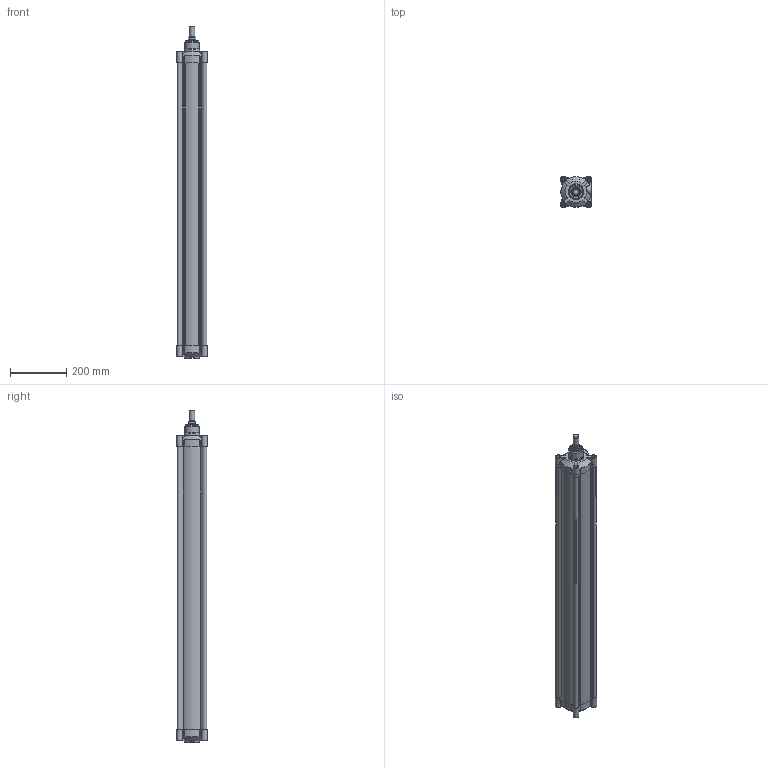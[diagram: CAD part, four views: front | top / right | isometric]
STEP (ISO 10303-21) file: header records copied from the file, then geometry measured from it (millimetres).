
FILE_DESCRIPTION(/* description */ (''),/* implementation_level */ '2;1');
FILE_NAME(/* name */ 'T:\Archivio Inventor\- 00 NUOVI STP PER SITO CON STELO CHE SI MUOVE\SERIE H - U\SERIE HDM\HDM100 - TUBO NUOVO\HDM100.950.GS.M.stp',/* time_stamp */ '2018-08-02T10:06:08+02:00',/* author */ ('carlo.corazza'),/* organization */ (''),/* preprocessor_version */ 'ST-DEVELOPER v16.5',/* originating_system */ 'Autodesk Inventor 2017',/* authorisation */ '');
FILE_SCHEMA (('AUTOMOTIVE_DESIGN { 1 0 10303 214 3 1 1 }'));
Length unit declared in the file: millimetre
Products named in the file (5): HDM100.950.GS.M; TP; TA; STELO-950; CORPO-950
Assembly tree (4 placements, depth 2):
  HDM100.950.GS.M
    TP
    TA
    STELO-950
    CORPO-950
Bounding box: 110 x 110 x 1183 mm (x, y, z)
Volume: 2739353.1 mm3; surface area: 1318264 mm2
Topology: 4 solids, 29 shells, 1355 faces, 3135 edges, 1912 vertices
Faces by surface type: plane 408, cylinder 313, bspline 270, torus 126, cone 122, sphere 116
Full cylindrical faces by diameter (mm): 5 x2, 5.9 x2, 6.5 x2, 7.25 x2, 8.376 x8, 9.4 x4, 10 x8, 10.3 x8, 11.8 x4, 11.9 x2, 12 x4, 16 x9, 16.3 x8, 17 x2, 17.5 x1, 18.631 x2, 20 x1, 24.5 x1, 25 x1, 25.8 x1, 25.962 x1, 30 x1, 31.5 x2, 35 x3, 52 x1, 55 x2, 100 x1
Entity records: 43668 total; most frequent: CARTESIAN_POINT 13702, ORIENTED_EDGE 5710, DIRECTION 5644, EDGE_CURVE 2855, AXIS2_PLACEMENT_3D 2293, VERTEX_POINT 1857, EDGE_LOOP 1690, STYLED_ITEM 1359
